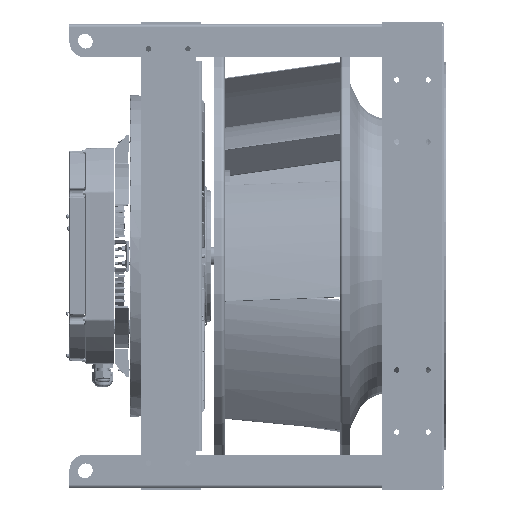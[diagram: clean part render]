
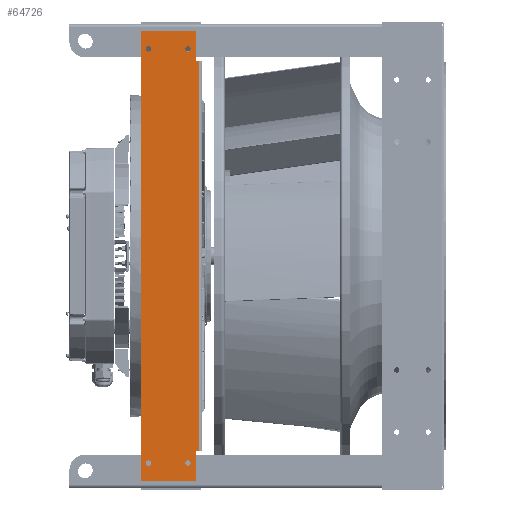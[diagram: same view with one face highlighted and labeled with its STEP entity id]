
A CAD part, left-side view. The second image highlights one B-rep face of the part: STEP entity #64726.
In plain terms, the highlighted planar face has unit normal (-1, 0, 0) as drawn and (0, 0, 1) by its records, which use the part's own axes.
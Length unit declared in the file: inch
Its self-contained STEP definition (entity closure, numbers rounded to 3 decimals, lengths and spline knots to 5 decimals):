
#890 = ORIENTED_EDGE ( 'NONE', *, *, #5597, .F. ) ;
#5117 = DIRECTION ( 'NONE',  ( 0., 0., 1. ) ) ;
#5597 = EDGE_CURVE ( 'NONE', #34958, #34958, #262884, .T. ) ;
#5706 = CARTESIAN_POINT ( 'NONE',  ( 12.59586, 1.77, 0.135 ) ) ;
#6761 = FACE_BOUND ( 'NONE', #235647, .T. ) ;
#8439 = LINE ( 'NONE', #114610, #78339 ) ;
#9003 = CARTESIAN_POINT ( 'NONE',  ( 12.59586, 1.9775, 0.135 ) ) ;
#12014 = VERTEX_POINT ( 'NONE', #271352 ) ;
#15250 = CARTESIAN_POINT ( 'NONE',  ( 12.59586, 1.9775, 0.135 ) ) ;
#15388 = EDGE_LOOP ( 'NONE', ( #218791 ) ) ;
#21756 = DIRECTION ( 'NONE',  ( -1., 0., 0. ) ) ;
#22159 = ORIENTED_EDGE ( 'NONE', *, *, #269329, .T. ) ;
#27757 = CARTESIAN_POINT ( 'NONE',  ( 13.34586, 1.27, 0.135 ) ) ;
#33225 = DIRECTION ( 'NONE',  ( 0., 0., 1. ) ) ;
#34958 = VERTEX_POINT ( 'NONE', #138423 ) ;
#36069 = EDGE_CURVE ( 'NONE', #52596, #52596, #84179, .T. ) ;
#39154 = ORIENTED_EDGE ( 'NONE', *, *, #87540, .T. ) ;
#44443 = ORIENTED_EDGE ( 'NONE', *, *, #62058, .F. ) ;
#48166 = FACE_OUTER_BOUND ( 'NONE', #67673, .T. ) ;
#48406 = VECTOR ( 'NONE', #175380, 39.37008 ) ;
#49280 = DIRECTION ( 'NONE',  ( 0., -1., 0. ) ) ;
#49838 = DIRECTION ( 'NONE',  ( -1., 0., 0. ) ) ;
#51724 = DIRECTION ( 'NONE',  ( 0., 0., 1. ) ) ;
#52596 = VERTEX_POINT ( 'NONE', #114643 ) ;
#56323 = VERTEX_POINT ( 'NONE', #60399 ) ;
#57746 = AXIS2_PLACEMENT_3D ( 'NONE', #27757, #33225, #49838 ) ;
#60399 = CARTESIAN_POINT ( 'NONE',  ( -13.51786, -1.27, 0.135 ) ) ;
#61350 = EDGE_CURVE ( 'NONE', #265138, #271157, #147740, .T. ) ;
#62058 = EDGE_CURVE ( 'NONE', #105468, #69508, #266410, .T. ) ;
#64726 = ADVANCED_FACE ( 'NONE', ( #48166, #132284, #6761, #90942, #175063 ), #154345, .F. ) ;
#67673 = EDGE_LOOP ( 'NONE', ( #193194, #152835, #82292, #166443, #44443, #39154, #22159, #106773 ) ) ;
#69508 = VERTEX_POINT ( 'NONE', #5706 ) ;
#72518 = VECTOR ( 'NONE', #261806, 39.37008 ) ;
#72790 = LINE ( 'NONE', #75467, #72518 ) ;
#74467 = CARTESIAN_POINT ( 'NONE',  ( 14.50586, -1.77, 0.135 ) ) ;
#75467 = CARTESIAN_POINT ( 'NONE',  ( -12.59586, 1.9775, 0.135 ) ) ;
#78339 = VECTOR ( 'NONE', #161430, 39.37008 ) ;
#79256 = VECTOR ( 'NONE', #138729, 39.37008 ) ;
#79631 = AXIS2_PLACEMENT_3D ( 'NONE', #155156, #51724, #244762 ) ;
#82292 = ORIENTED_EDGE ( 'NONE', *, *, #61350, .T. ) ;
#84179 = CIRCLE ( 'NONE', #57746, 0.172 ) ;
#85692 = CARTESIAN_POINT ( 'NONE',  ( 14.50586, -1.77, 0.135 ) ) ;
#87540 = EDGE_CURVE ( 'NONE', #105468, #12014, #160760, .T. ) ;
#89525 = EDGE_CURVE ( 'NONE', #56323, #56323, #103023, .T. ) ;
#90942 = FACE_BOUND ( 'NONE', #261218, .T. ) ;
#92277 = CARTESIAN_POINT ( 'NONE',  ( 0., 0., 0.135 ) ) ;
#93975 = CARTESIAN_POINT ( 'NONE',  ( -14.50586, 1.77, 0.135 ) ) ;
#96379 = CARTESIAN_POINT ( 'NONE',  ( 13.51786, -1.27, 0.135 ) ) ;
#99139 = CARTESIAN_POINT ( 'NONE',  ( 14.50586, 1.77, 0.135 ) ) ;
#103023 = CIRCLE ( 'NONE', #125076, 0.172 ) ;
#103224 = EDGE_CURVE ( 'NONE', #171415, #198289, #8439, .T. ) ;
#104465 = ORIENTED_EDGE ( 'NONE', *, *, #205375, .F. ) ;
#105468 = VERTEX_POINT ( 'NONE', #9003 ) ;
#106773 = ORIENTED_EDGE ( 'NONE', *, *, #103224, .T. ) ;
#108297 = EDGE_CURVE ( 'NONE', #271157, #69508, #114609, .T. ) ;
#108651 = LINE ( 'NONE', #216175, #141564 ) ;
#112573 = AXIS2_PLACEMENT_3D ( 'NONE', #92277, #238532, #197117 ) ;
#114609 = LINE ( 'NONE', #93975, #48406 ) ;
#114610 = CARTESIAN_POINT ( 'NONE',  ( -14.50586, 1.77, 0.135 ) ) ;
#114643 = CARTESIAN_POINT ( 'NONE',  ( 13.17385, 1.27, 0.135 ) ) ;
#116717 = VECTOR ( 'NONE', #183557, 39.37008 ) ;
#120749 = EDGE_CURVE ( 'NONE', #216924, #265138, #219450, .T. ) ;
#125076 = AXIS2_PLACEMENT_3D ( 'NONE', #169356, #5117, #21756 ) ;
#132284 = FACE_BOUND ( 'NONE', #135289, .T. ) ;
#135289 = EDGE_LOOP ( 'NONE', ( #197020 ) ) ;
#136002 = CARTESIAN_POINT ( 'NONE',  ( 12.59586, 1.9775, 0.135 ) ) ;
#138423 = CARTESIAN_POINT ( 'NONE',  ( -13.17385, 1.27, 0.135 ) ) ;
#138729 = DIRECTION ( 'NONE',  ( -1., 0., 0. ) ) ;
#141564 = VECTOR ( 'NONE', #49280, 39.37008 ) ;
#147740 = LINE ( 'NONE', #85692, #222316 ) ;
#152835 = ORIENTED_EDGE ( 'NONE', *, *, #120749, .T. ) ;
#154345 = PLANE ( 'NONE',  #112573 ) ;
#155156 = CARTESIAN_POINT ( 'NONE',  ( 13.34586, -1.27, 0.135 ) ) ;
#155854 = VECTOR ( 'NONE', #194688, 39.37008 ) ;
#157496 = CARTESIAN_POINT ( 'NONE',  ( -13.34586, 1.27, 0.135 ) ) ;
#160760 = LINE ( 'NONE', #136002, #79256 ) ;
#161430 = DIRECTION ( 'NONE',  ( -1., 0., 0. ) ) ;
#166443 = ORIENTED_EDGE ( 'NONE', *, *, #108297, .T. ) ;
#169356 = CARTESIAN_POINT ( 'NONE',  ( -13.34586, -1.27, 0.135 ) ) ;
#171415 = VERTEX_POINT ( 'NONE', #258568 ) ;
#175063 = FACE_BOUND ( 'NONE', #15388, .T. ) ;
#175380 = DIRECTION ( 'NONE',  ( -1., 0., 0. ) ) ;
#176825 = DIRECTION ( 'NONE',  ( 1., 0., 0. ) ) ;
#180883 = DIRECTION ( 'NONE',  ( 0., 0., 1. ) ) ;
#183557 = DIRECTION ( 'NONE',  ( 0., -1., 0. ) ) ;
#193194 = ORIENTED_EDGE ( 'NONE', *, *, #252325, .T. ) ;
#194688 = DIRECTION ( 'NONE',  ( 1., 0., 0. ) ) ;
#197020 = ORIENTED_EDGE ( 'NONE', *, *, #89525, .F. ) ;
#197117 = DIRECTION ( 'NONE',  ( -1., 0., 0. ) ) ;
#198289 = VERTEX_POINT ( 'NONE', #236056 ) ;
#205375 = EDGE_CURVE ( 'NONE', #227360, #227360, #238181, .T. ) ;
#215362 = CARTESIAN_POINT ( 'NONE',  ( -14.50586, -1.77, 0.135 ) ) ;
#216175 = CARTESIAN_POINT ( 'NONE',  ( -14.50586, -1.77, 0.135 ) ) ;
#216924 = VERTEX_POINT ( 'NONE', #226923 ) ;
#218791 = ORIENTED_EDGE ( 'NONE', *, *, #36069, .F. ) ;
#219450 = LINE ( 'NONE', #215362, #155854 ) ;
#222316 = VECTOR ( 'NONE', #248526, 39.37008 ) ;
#226923 = CARTESIAN_POINT ( 'NONE',  ( -14.50586, -1.77, 0.135 ) ) ;
#227360 = VERTEX_POINT ( 'NONE', #96379 ) ;
#227544 = AXIS2_PLACEMENT_3D ( 'NONE', #157496, #180883, #176825 ) ;
#235647 = EDGE_LOOP ( 'NONE', ( #890 ) ) ;
#236056 = CARTESIAN_POINT ( 'NONE',  ( -14.50586, 1.77, 0.135 ) ) ;
#238181 = CIRCLE ( 'NONE', #79631, 0.172 ) ;
#238532 = DIRECTION ( 'NONE',  ( 0., 0., -1. ) ) ;
#244762 = DIRECTION ( 'NONE',  ( 1., 0., 0. ) ) ;
#248526 = DIRECTION ( 'NONE',  ( 0., 1., 0. ) ) ;
#252325 = EDGE_CURVE ( 'NONE', #198289, #216924, #108651, .T. ) ;
#258568 = CARTESIAN_POINT ( 'NONE',  ( -12.59586, 1.77, 0.135 ) ) ;
#261218 = EDGE_LOOP ( 'NONE', ( #104465 ) ) ;
#261806 = DIRECTION ( 'NONE',  ( 0., -1., 0. ) ) ;
#262884 = CIRCLE ( 'NONE', #227544, 0.172 ) ;
#265138 = VERTEX_POINT ( 'NONE', #74467 ) ;
#266410 = LINE ( 'NONE', #15250, #116717 ) ;
#269329 = EDGE_CURVE ( 'NONE', #12014, #171415, #72790, .T. ) ;
#271157 = VERTEX_POINT ( 'NONE', #99139 ) ;
#271352 = CARTESIAN_POINT ( 'NONE',  ( -12.59586, 1.9775, 0.135 ) ) ;
